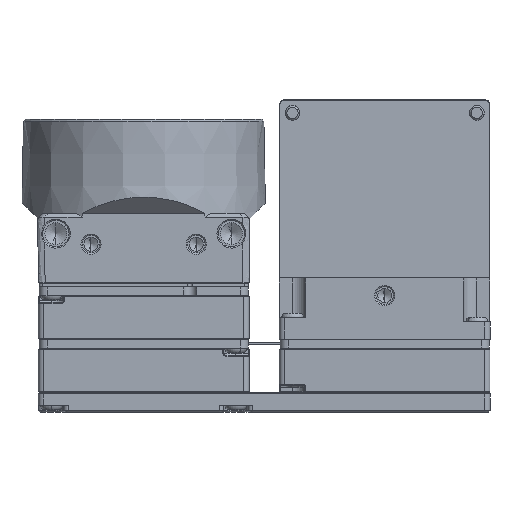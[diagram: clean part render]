
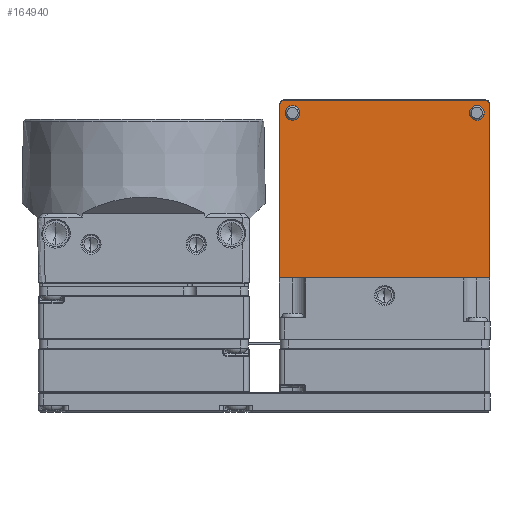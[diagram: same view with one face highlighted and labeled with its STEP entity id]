
A CAD part, front view. The second image highlights one B-rep face of the part: STEP entity #164940.
In plain terms, the highlighted planar face has unit normal (0, -1, 0).
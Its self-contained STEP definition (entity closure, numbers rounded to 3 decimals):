
#3590 = DIRECTION ( 'NONE',  ( 0., 0., 1. ) ) ;
#6700 = ORIENTED_EDGE ( 'NONE', *, *, #82894, .F. ) ;
#7615 = CARTESIAN_POINT ( 'NONE',  ( 16.95, 6.5, 19.45 ) ) ;
#9318 = DIRECTION ( 'NONE',  ( 0., -1., 0. ) ) ;
#18513 = CARTESIAN_POINT ( 'NONE',  ( 16.05, 6.5, 20.25 ) ) ;
#19434 = VERTEX_POINT ( 'NONE', #122849 ) ;
#19527 = CARTESIAN_POINT ( 'NONE',  ( 37.95, 6.5, 18.6 ) ) ;
#19977 = VECTOR ( 'NONE', #81522, 1000. ) ;
#20033 = ORIENTED_EDGE ( 'NONE', *, *, #125819, .F. ) ;
#24370 = CARTESIAN_POINT ( 'NONE',  ( 38.85, 6.5, 20.25 ) ) ;
#26230 = ORIENTED_EDGE ( 'NONE', *, *, #125790, .T. ) ;
#27111 = LINE ( 'NONE', #142715, #71380 ) ;
#28856 = LINE ( 'NONE', #30529, #19977 ) ;
#29793 = DIRECTION ( 'NONE',  ( 0., 0., 1. ) ) ;
#30529 = CARTESIAN_POINT ( 'NONE',  ( 39.45, 6.5, -3.15 ) ) ;
#30573 = EDGE_LOOP ( 'NONE', ( #135833, #134308, #57884, #57528, #119071, #26230 ) ) ;
#31154 = VECTOR ( 'NONE', #95732, 1000. ) ;
#31287 = VERTEX_POINT ( 'NONE', #97452 ) ;
#36591 = VERTEX_POINT ( 'NONE', #102051 ) ;
#36718 = EDGE_CURVE ( 'NONE', #156891, #36591, #152910, .T. ) ;
#39658 = AXIS2_PLACEMENT_3D ( 'NONE', #7615, #9318, #49025 ) ;
#39976 = ORIENTED_EDGE ( 'NONE', *, *, #103109, .F. ) ;
#43656 = LINE ( 'NONE', #111771, #71449 ) ;
#45084 = CARTESIAN_POINT ( 'NONE',  ( 39.45, 6.5, 20.25 ) ) ;
#46702 = EDGE_CURVE ( 'NONE', #47444, #109798, #146046, .T. ) ;
#47444 = VERTEX_POINT ( 'NONE', #103959 ) ;
#48640 = CIRCLE ( 'NONE', #139441, 0.6 ) ;
#49025 = DIRECTION ( 'NONE',  ( 0., 0., 1. ) ) ;
#52124 = EDGE_LOOP ( 'NONE', ( #39976, #60018 ) ) ;
#52863 = DIRECTION ( 'NONE',  ( 0., 0., 1. ) ) ;
#55403 = CARTESIAN_POINT ( 'NONE',  ( 37.95, 6.5, 19.45 ) ) ;
#56192 = PLANE ( 'NONE',  #148188 ) ;
#57023 = FACE_BOUND ( 'NONE', #52124, .T. ) ;
#57467 = DIRECTION ( 'NONE',  ( 1., 0., 0. ) ) ;
#57528 = ORIENTED_EDGE ( 'NONE', *, *, #101426, .T. ) ;
#57884 = ORIENTED_EDGE ( 'NONE', *, *, #36718, .F. ) ;
#60018 = ORIENTED_EDGE ( 'NONE', *, *, #46702, .F. ) ;
#61348 = EDGE_LOOP ( 'NONE', ( #6700, #20033 ) ) ;
#65805 = DIRECTION ( 'NONE',  ( 0., -1., 0. ) ) ;
#66563 = FACE_OUTER_BOUND ( 'NONE', #30573, .T. ) ;
#66655 = DIRECTION ( 'NONE',  ( 0., 0., 1. ) ) ;
#71380 = VECTOR ( 'NONE', #145268, 1000. ) ;
#71449 = VECTOR ( 'NONE', #57467, 1000. ) ;
#71765 = AXIS2_PLACEMENT_3D ( 'NONE', #77884, #143339, #170075 ) ;
#77062 = DIRECTION ( 'NONE',  ( 0., -1., 0. ) ) ;
#77884 = CARTESIAN_POINT ( 'NONE',  ( 37.95, 6.5, 19.45 ) ) ;
#79238 = CARTESIAN_POINT ( 'NONE',  ( 16.95, 6.5, 18.6 ) ) ;
#81522 = DIRECTION ( 'NONE',  ( 0., 0., -1. ) ) ;
#82894 = EDGE_CURVE ( 'NONE', #109614, #19434, #114033, .T. ) ;
#82988 = VERTEX_POINT ( 'NONE', #113733 ) ;
#83438 = EDGE_CURVE ( 'NONE', #111867, #31287, #28856, .T. ) ;
#90298 = CARTESIAN_POINT ( 'NONE',  ( 15.45, 6.5, 0.65 ) ) ;
#92125 = EDGE_CURVE ( 'NONE', #147536, #82988, #27111, .T. ) ;
#95732 = DIRECTION ( 'NONE',  ( 0., 0., 1. ) ) ;
#97452 = CARTESIAN_POINT ( 'NONE',  ( 39.45, 6.5, 0.65 ) ) ;
#99368 = CIRCLE ( 'NONE', #118838, 0.85 ) ;
#101426 = EDGE_CURVE ( 'NONE', #156891, #31287, #43656, .T. ) ;
#102051 = CARTESIAN_POINT ( 'NONE',  ( 15.45, 6.5, 20.25 ) ) ;
#103109 = EDGE_CURVE ( 'NONE', #109798, #47444, #99368, .T. ) ;
#103959 = CARTESIAN_POINT ( 'NONE',  ( 37.95, 6.5, 20.3 ) ) ;
#107911 = DIRECTION ( 'NONE',  ( 0., 0., 1. ) ) ;
#109614 = VERTEX_POINT ( 'NONE', #79238 ) ;
#109708 = CARTESIAN_POINT ( 'NONE',  ( 16.95, 6.5, 19.45 ) ) ;
#109798 = VERTEX_POINT ( 'NONE', #19527 ) ;
#109964 = AXIS2_PLACEMENT_3D ( 'NONE', #24370, #77062, #52863 ) ;
#111771 = CARTESIAN_POINT ( 'NONE',  ( 27.45, 6.5, 0.65 ) ) ;
#111867 = VERTEX_POINT ( 'NONE', #45084 ) ;
#113733 = CARTESIAN_POINT ( 'NONE',  ( 38.85, 6.5, 20.85 ) ) ;
#114033 = CIRCLE ( 'NONE', #39658, 0.85 ) ;
#115929 = EDGE_CURVE ( 'NONE', #147536, #36591, #48640, .T. ) ;
#118838 = AXIS2_PLACEMENT_3D ( 'NONE', #55403, #65805, #66655 ) ;
#119071 = ORIENTED_EDGE ( 'NONE', *, *, #83438, .F. ) ;
#121812 = DIRECTION ( 'NONE',  ( 0., -1., 0. ) ) ;
#122558 = DIRECTION ( 'NONE',  ( 0., -1., 0. ) ) ;
#122849 = CARTESIAN_POINT ( 'NONE',  ( 16.95, 6.5, 20.3 ) ) ;
#123739 = AXIS2_PLACEMENT_3D ( 'NONE', #109708, #121812, #3590 ) ;
#125790 = EDGE_CURVE ( 'NONE', #111867, #82988, #134817, .T. ) ;
#125819 = EDGE_CURVE ( 'NONE', #19434, #109614, #140209, .T. ) ;
#129164 = CARTESIAN_POINT ( 'NONE',  ( 16.05, 6.5, 20.85 ) ) ;
#134308 = ORIENTED_EDGE ( 'NONE', *, *, #115929, .T. ) ;
#134817 = CIRCLE ( 'NONE', #109964, 0.6 ) ;
#135833 = ORIENTED_EDGE ( 'NONE', *, *, #92125, .F. ) ;
#139441 = AXIS2_PLACEMENT_3D ( 'NONE', #18513, #147923, #29793 ) ;
#140209 = CIRCLE ( 'NONE', #123739, 0.85 ) ;
#142715 = CARTESIAN_POINT ( 'NONE',  ( 39.45, 6.5, 20.85 ) ) ;
#143339 = DIRECTION ( 'NONE',  ( 0., -1., 0. ) ) ;
#145268 = DIRECTION ( 'NONE',  ( 1., 0., 0. ) ) ;
#146046 = CIRCLE ( 'NONE', #71765, 0.85 ) ;
#147536 = VERTEX_POINT ( 'NONE', #129164 ) ;
#147923 = DIRECTION ( 'NONE',  ( 0., -1., 0. ) ) ;
#148188 = AXIS2_PLACEMENT_3D ( 'NONE', #159606, #122558, #107911 ) ;
#152910 = LINE ( 'NONE', #160363, #31154 ) ;
#156891 = VERTEX_POINT ( 'NONE', #90298 ) ;
#159606 = CARTESIAN_POINT ( 'NONE',  ( 27.45, 6.5, -2.85 ) ) ;
#160363 = CARTESIAN_POINT ( 'NONE',  ( 15.45, 6.5, -3.15 ) ) ;
#160464 = FACE_BOUND ( 'NONE', #61348, .T. ) ;
#164940 = ADVANCED_FACE ( 'NONE', ( #57023, #160464, #66563 ), #56192, .T. ) ;
#170075 = DIRECTION ( 'NONE',  ( 0., 0., 1. ) ) ;
